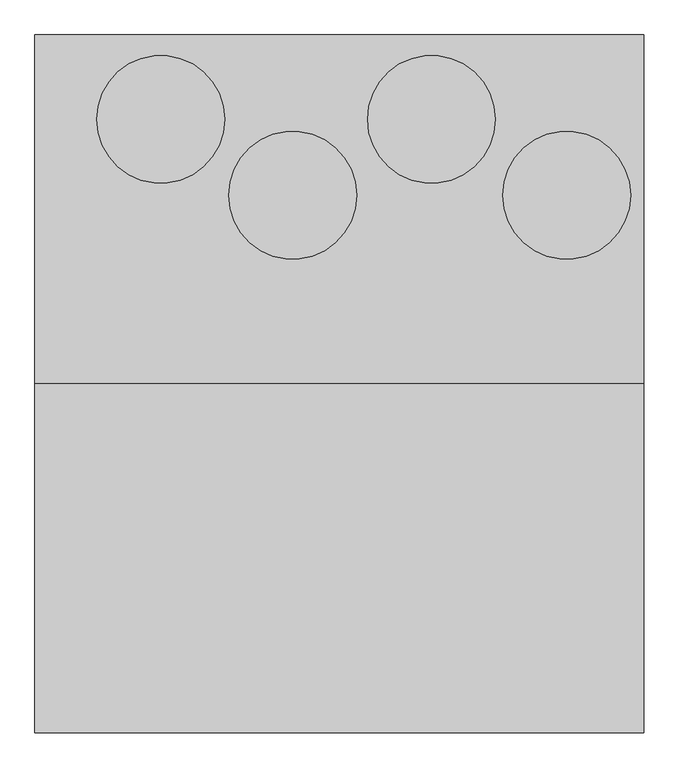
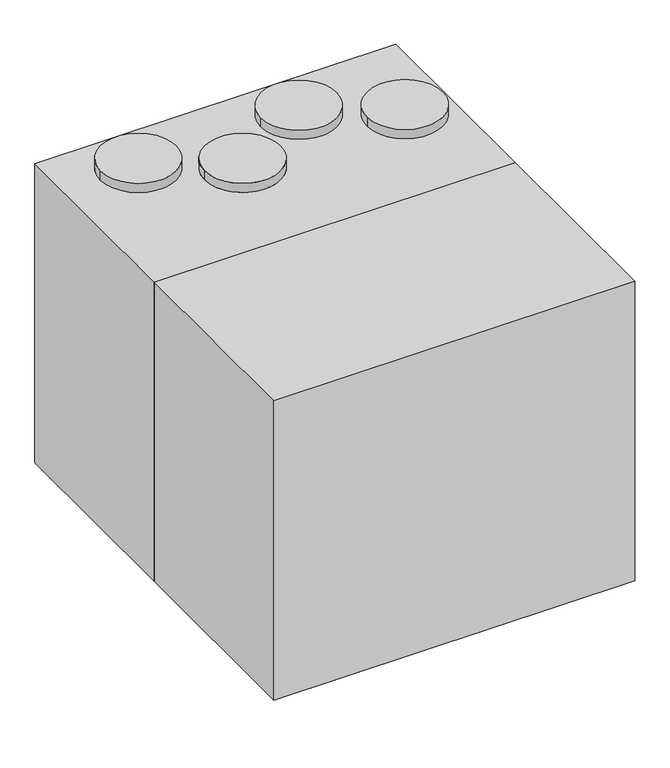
"""IFC4 building model written with IfcOpenShell, lengths in millimetres: proxy geometry, ADSK_КПВУ RIVIERA-EC VRE_круглая : Riviera-EC VRE 1400."""

from ifc_helpers import new_model, si_unit, frame, origin, place, context, project, spatial, polyline, circle_curve, outline, extrude, source, transform, mapped, element, save
from ifc_brep_helpers import plane_surface, cylinder_surface, advanced_brep


def mechanical_equipment_af5c04b0(model_context):
    return source(origin(), model_context, "Body", "SolidModel", [
        extrude(outline(polyline([(1016.0, -430.0), (1016.0, -1290.0), (-484.0, -1290.0), (-484.0, -430.0), (1016.0, -430.0)])), frame((0.0, 0.0, 145.0), z_axis=(0.0, 0.0, 1.0), x_axis=(1.0, 0.0, 0.0)), (0.0, 0.0, 1.0), 1315.0),
        advanced_brep(
        [(-144.0, -430.0, 0.0), (-144.0, -430.0, 145.0), (796.0, -430.0, 145.0), (796.0, -430.0, 0.0), (856.0, -430.0, 0.0), (856.0, -430.0, 145.0), (1016.0, -430.0, 145.0), (1016.0, -430.0, 1460.0), (-484.0, -430.0, 1460.0), (-484.0, -430.0, 145.0), (-204.0, -430.0, 145.0), (-204.0, -430.0, 0.0), (-154.0, -430.0, 10.0), (-194.0, -430.0, 10.0), (-194.0, -430.0, 145.0), (-154.0, -430.0, 145.0), (846.0, -430.0, 10.0), (806.0, -430.0, 10.0), (806.0, -430.0, 145.0), (846.0, -430.0, 145.0), (-144.0, 430.0, 0.0), (-204.0, 430.0, 0.0), (-204.0, 430.0, 145.0), (-484.0, 430.0, 145.0), (-484.0, 430.0, 1460.0), (1016.0, 430.0, 1460.0), (1016.0, 430.0, 145.0), (856.0, 430.0, 145.0), (856.0, 430.0, 0.0), (796.0, 430.0, 0.0), (796.0, 430.0, 145.0), (-144.0, 430.0, 145.0), (-154.0, 430.0, 10.0), (-154.0, 430.0, 145.0), (-194.0, 430.0, 145.0), (-194.0, 430.0, 10.0), (846.0, 430.0, 10.0), (846.0, 430.0, 145.0), (806.0, 430.0, 145.0), (806.0, 430.0, 10.0), (-331.5, 222.0, 1500.0), (-16.5, 222.0, 1500.0), (-6.5, 35.0, 1500.0), (308.5, 35.0, 1500.0), (335.5, 222.0, 1500.0), (650.5, 222.0, 1500.0), (668.5, 35.0, 1500.0), (983.5, 35.0, 1500.0), (-331.5, 222.0, 1460.0), (-16.5, 222.0, 1460.0), (-6.5, 35.0, 1460.0), (308.5, 35.0, 1460.0), (335.5, 222.0, 1460.0), (650.5, 222.0, 1460.0), (668.5, 35.0, 1460.0), (983.5, 35.0, 1460.0)],
        [
            (0, 1),
            (1, 2),
            (2, 3),
            (3, 4),
            (4, 5),
            (5, 6),
            (6, 7),
            (7, 8),
            (8, 9),
            (9, 10),
            (10, 11),
            (11, 0),
            (12, 13),
            (13, 14),
            (14, 15),
            (15, 12),
            (16, 17),
            (17, 18),
            (18, 19),
            (19, 16),
            (20, 21),
            (21, 22),
            (22, 23),
            (23, 24),
            (24, 25),
            (25, 26),
            (26, 27),
            (27, 28),
            (28, 29),
            (29, 30),
            (30, 31),
            (31, 20),
            (32, 33),
            (33, 34),
            (34, 35),
            (35, 32),
            (36, 37),
            (37, 38),
            (38, 39),
            (39, 36),
            (21, 11),
            (10, 22),
            (20, 0),
            (31, 1),
            (32, 12),
            (15, 33),
            (35, 13),
            (34, 14),
            (4, 28),
            (27, 5),
            (36, 16),
            (19, 37),
            (39, 17),
            (38, 18),
            (29, 3),
            (2, 30),
            (40, 41, circle_curve(frame((-174.0, 222.0, 1500.0), z_axis=(0.0, 0.0, 1.0), x_axis=(1.0, 0.0, 0.0)), 157.5)),
            (41, 40, circle_curve(frame((-174.0, 222.0, 1500.0), z_axis=(0.0, 0.0, 1.0), x_axis=(1.0, 0.0, 0.0)), 157.5)),
            (42, 43, circle_curve(frame((151.0, 35.0, 1500.0), z_axis=(0.0, 0.0, 1.0), x_axis=(1.0, 0.0, 0.0)), 157.5)),
            (43, 42, circle_curve(frame((151.0, 35.0, 1500.0), z_axis=(0.0, 0.0, 1.0), x_axis=(1.0, 0.0, 0.0)), 157.5)),
            (44, 45, circle_curve(frame((493.0, 222.0, 1500.0), z_axis=(0.0, 0.0, 1.0), x_axis=(1.0, 0.0, 0.0)), 157.5)),
            (45, 44, circle_curve(frame((493.0, 222.0, 1500.0), z_axis=(0.0, 0.0, 1.0), x_axis=(1.0, 0.0, 0.0)), 157.5)),
            (46, 47, circle_curve(frame((826.0, 35.0, 1500.0), z_axis=(0.0, 0.0, 1.0), x_axis=(1.0, 0.0, 0.0)), 157.5)),
            (47, 46, circle_curve(frame((826.0, 35.0, 1500.0), z_axis=(0.0, 0.0, 1.0), x_axis=(1.0, 0.0, 0.0)), 157.5)),
            (40, 48),
            (48, 49, circle_curve(frame((-174.0, 222.0, 1460.0), z_axis=(0.0, 0.0, 1.0), x_axis=(1.0, 0.0, 0.0)), 157.5)),
            (49, 41),
            (49, 48, circle_curve(frame((-174.0, 222.0, 1460.0), z_axis=(0.0, 0.0, 1.0), x_axis=(1.0, 0.0, 0.0)), 157.5)),
            (42, 50),
            (50, 51, circle_curve(frame((151.0, 35.0, 1460.0), z_axis=(0.0, 0.0, 1.0), x_axis=(1.0, 0.0, 0.0)), 157.5)),
            (51, 43),
            (51, 50, circle_curve(frame((151.0, 35.0, 1460.0), z_axis=(0.0, 0.0, 1.0), x_axis=(1.0, 0.0, 0.0)), 157.5)),
            (44, 52),
            (52, 53, circle_curve(frame((493.0, 222.0, 1460.0), z_axis=(0.0, 0.0, 1.0), x_axis=(1.0, 0.0, 0.0)), 157.5)),
            (53, 45),
            (53, 52, circle_curve(frame((493.0, 222.0, 1460.0), z_axis=(0.0, 0.0, 1.0), x_axis=(1.0, 0.0, 0.0)), 157.5)),
            (46, 54),
            (54, 55, circle_curve(frame((826.0, 35.0, 1460.0), z_axis=(0.0, 0.0, 1.0), x_axis=(1.0, 0.0, 0.0)), 157.5)),
            (55, 47),
            (55, 54, circle_curve(frame((826.0, 35.0, 1460.0), z_axis=(0.0, 0.0, 1.0), x_axis=(1.0, 0.0, 0.0)), 157.5)),
            (6, 26),
            (25, 7),
            (8, 24),
            (23, 9),
        ],
        [
            plane_surface(frame((-144.0, -430.0, 0.0), z_axis=(0.0, -1.0, 0.0), x_axis=(0.0, 0.0, 1.0))),
            plane_surface(frame((-144.0, 430.0, 0.0), z_axis=(0.0, 1.0, 0.0), x_axis=(0.0, 0.0, -1.0))),
            plane_surface(frame((-204.0, -430.0, 175.0), z_axis=(-1.0, 0.0, 0.0), x_axis=(0.0, 1.0, 0.0))),
            plane_surface(frame((-204.0, -430.0, 0.0), z_axis=(0.0, 0.0, -1.0), x_axis=(0.0, 1.0, 0.0))),
            plane_surface(frame((-144.0, -430.0, 0.0), z_axis=(1.0, 0.0, 0.0), x_axis=(0.0, 1.0, 0.0))),
            plane_surface(frame((-154.0, -430.0, 175.0), z_axis=(-1.0, 0.0, 0.0), x_axis=(0.0, 1.0, 0.0))),
            plane_surface(frame((-154.0, -430.0, 10.0), z_axis=(0.0, 0.0, 1.0), x_axis=(0.0, 1.0, 0.0))),
            plane_surface(frame((-194.0, -430.0, 10.0), z_axis=(1.0, 0.0, 0.0), x_axis=(0.0, 1.0, 0.0))),
            plane_surface(frame((856.0, -430.0, 0.0), z_axis=(1.0, 0.0, 0.0), x_axis=(0.0, 1.0, 0.0))),
            plane_surface(frame((846.0, -430.0, 175.0), z_axis=(-1.0, 0.0, 0.0), x_axis=(0.0, 1.0, 0.0))),
            plane_surface(frame((846.0, -430.0, 10.0), z_axis=(0.0, 0.0, 1.0), x_axis=(0.0, 1.0, 0.0))),
            plane_surface(frame((806.0, -430.0, 10.0), z_axis=(1.0, 0.0, 0.0), x_axis=(0.0, 1.0, 0.0))),
            plane_surface(frame((796.0, -430.0, 175.0), z_axis=(-1.0, 0.0, 0.0), x_axis=(0.0, 1.0, 0.0))),
            plane_surface(frame((796.0, -430.0, 0.0), z_axis=(0.0, 0.0, -1.0), x_axis=(0.0, 1.0, 0.0))),
            plane_surface(frame((-16.5, 222.0, 1500.0), z_axis=(0.0, 0.0, 1.0), x_axis=(0.0, 1.0, 0.0))),
            cylinder_surface(frame((-174.0, 222.0, 1460.0), z_axis=(0.0, 0.0, 1.0), x_axis=(1.0, 0.0, 0.0)), 157.5),
            cylinder_surface(frame((151.0, 35.0, 0.0), z_axis=(0.0, 0.0, 1.0), x_axis=(1.0, 0.0, 0.0)), 157.5),
            cylinder_surface(frame((493.0, 222.0, 0.0), z_axis=(0.0, 0.0, 1.0), x_axis=(1.0, 0.0, 0.0)), 157.5),
            cylinder_surface(frame((826.0, 35.0, 0.0), z_axis=(0.0, 0.0, 1.0), x_axis=(1.0, 0.0, 0.0)), 157.5),
            plane_surface(frame((1016.0, -430.0, 1460.0), z_axis=(1.0, 0.0, 0.0), x_axis=(0.0, 0.0, -1.0))),
            plane_surface(frame((-484.0, -430.0, 1460.0), z_axis=(-1.0, 0.0, 0.0), x_axis=(0.0, 0.0, 1.0))),
            plane_surface(frame((1016.0, -430.0, 145.0), z_axis=(0.0, 0.0, -1.0), x_axis=(-1.0, 0.0, 0.0))),
            plane_surface(frame((1016.0, 430.0, 1460.0), z_axis=(0.0, 0.0, 1.0), x_axis=(-1.0, 0.0, 0.0))),
        ],
        [
            (0, [[1, 2, 3, 4, 5, 6, 7, 8, 9, 10, 11, 12], [13, 14, 15, 16], [17, 18, 19, 20]]),
            (1, [[21, 22, 23, 24, 25, 26, 27, 28, 29, 30, 31, 32], [33, 34, 35, 36], [37, 38, 39, 40]]),
            (2, [[41, -11, 42, -22]]),
            (3, [[-12, -41, -21, 43]]),
            (4, [[-43, -32, 44, -1]]),
            (5, [[45, -16, 46, -33]]),
            (6, [[-13, -45, -36, 47]]),
            (7, [[-47, -35, 48, -14]]),
            (8, [[49, -28, 50, -5]]),
            (9, [[51, -20, 52, -37]]),
            (10, [[-17, -51, -40, 53]]),
            (11, [[-53, -39, 54, -18]]),
            (12, [[55, -3, 56, -30]]),
            (13, [[-4, -55, -29, -49]]),
            (14, [[57, 58]]),
            (14, [[59, 60]]),
            (14, [[61, 62]]),
            (14, [[63, 64]]),
            (15, [[-57, 65, 66, 67]]),
            (15, [[-58, -67, 68, -65]]),
            (16, [[-59, 69, 70, 71]]),
            (16, [[-60, -71, 72, -69]]),
            (17, [[-61, 73, 74, 75]]),
            (17, [[-62, -75, 76, -73]]),
            (18, [[-63, 77, 78, 79]]),
            (18, [[-64, -79, 80, -77]]),
            (19, [[-7, 81, -26, 82]]),
            (20, [[83, -24, 84, -9]]),
            (21, [[-15, -48, -34, -46]]),
            (21, [[-19, -54, -38, -52]]),
            (21, [[-2, -44, -31, -56]]),
            (21, [[-81, -6, -50, -27]]),
            (21, [[-84, -23, -42, -10]]),
            (22, [[-82, -25, -83, -8], [-66, -68], [-70, -72], [-74, -76], [-78, -80]]),
        ],
    ),
    ])


if __name__ == "__main__":
    model = new_model("IFC4")
    model_context = context("Model", 3, world=origin())
    ifc_project = project(units=[si_unit("LENGTHUNIT", "METRE", prefix="MILLI")], contexts=[model_context])
    site = spatial("IfcSite", under=ifc_project)
    building = spatial("IfcBuilding", under=site)
    placement = place(None, origin())
    mechanical_equipment_shape = mechanical_equipment_af5c04b0(model_context)
    element("IfcBuildingElementProxy", 1, Name="ADSK_КПВУ RIVIERA-EC VRE_круглая : Riviera-EC VRE 1400", ObjectType="ADSK_КПВУ RIVIERA-EC VRE_круглая : Riviera-EC VRE 1400", at=placement, inside=building, context=model_context, shape_type="MappedRepresentation", body=[
        mapped(mechanical_equipment_shape, transform((0.0, 0.0, 0.0), x_axis=(1.0, 0.0, 0.0), y_axis=(0.0, 1.0, 0.0), z_axis=(0.0, 0.0, 1.0))),
    ])
    save(model, "model.ifc")
